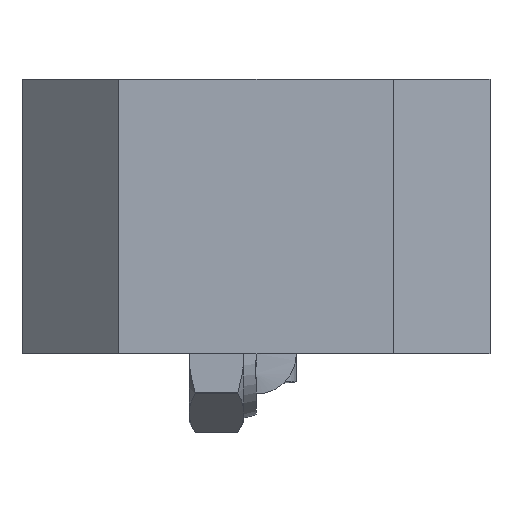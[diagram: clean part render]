
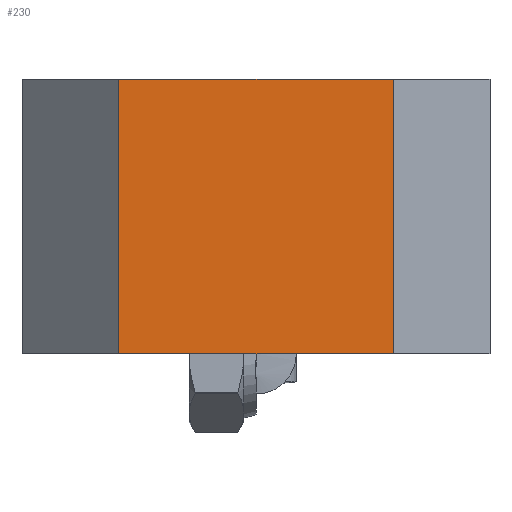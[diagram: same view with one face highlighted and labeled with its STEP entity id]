
A CAD part, left-side view. The second image highlights one B-rep face of the part: STEP entity #230.
In plain terms, the highlighted planar face has unit normal (-1, 0, 0).
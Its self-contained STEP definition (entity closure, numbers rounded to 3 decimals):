
#230 = ADVANCED_FACE( '', ( #308 ), #309, .T. );
#308 = FACE_OUTER_BOUND( '', #464, .T. );
#309 = PLANE( '', #465 );
#464 = EDGE_LOOP( '', ( #665, #666, #667, #668 ) );
#465 = AXIS2_PLACEMENT_3D( '', #669, #670, #671 );
#665 = ORIENTED_EDGE( '', *, *, #1106, .T. );
#666 = ORIENTED_EDGE( '', *, *, #1103, .T. );
#667 = ORIENTED_EDGE( '', *, *, #1081, .F. );
#668 = ORIENTED_EDGE( '', *, *, #1093, .T. );
#669 = CARTESIAN_POINT( '', ( -29., -29., 0. ) );
#670 = DIRECTION( '', ( -1., 0., 0. ) );
#671 = DIRECTION( '', ( 0., 0., 1. ) );
#1081 = EDGE_CURVE( '', #1220, #1221, #1222, .T. );
#1093 = EDGE_CURVE( '', #1220, #1242, #1244, .T. );
#1103 = EDGE_CURVE( '', #1260, #1221, #1261, .T. );
#1106 = EDGE_CURVE( '', #1242, #1260, #1265, .T. );
#1220 = VERTEX_POINT( '', #1450 );
#1221 = VERTEX_POINT( '', #1451 );
#1222 = LINE( '', #1452, #1453 );
#1242 = VERTEX_POINT( '', #1481 );
#1244 = LINE( '', #1484, #1485 );
#1260 = VERTEX_POINT( '', #1510 );
#1261 = LINE( '', #1511, #1512 );
#1265 = LINE( '', #1517, #1518 );
#1450 = CARTESIAN_POINT( '', ( -29., -17., 0. ) );
#1451 = CARTESIAN_POINT( '', ( -29., 17., 0. ) );
#1452 = CARTESIAN_POINT( '', ( -29., -29., 0. ) );
#1453 = VECTOR( '', #1882, 1000. );
#1481 = CARTESIAN_POINT( '', ( -29., -17., 34. ) );
#1484 = CARTESIAN_POINT( '', ( -29., -17., 0. ) );
#1485 = VECTOR( '', #1898, 1000. );
#1510 = CARTESIAN_POINT( '', ( -29., 17., 34. ) );
#1511 = CARTESIAN_POINT( '', ( -29., 17., 0. ) );
#1512 = VECTOR( '', #1908, 1000. );
#1517 = CARTESIAN_POINT( '', ( -29., -29., 34. ) );
#1518 = VECTOR( '', #1913, 1000. );
#1882 = DIRECTION( '', ( 0., 1., 0. ) );
#1898 = DIRECTION( '', ( 0., 0., 1. ) );
#1908 = DIRECTION( '', ( 0., 0., -1. ) );
#1913 = DIRECTION( '', ( 0., 1., 0. ) );
